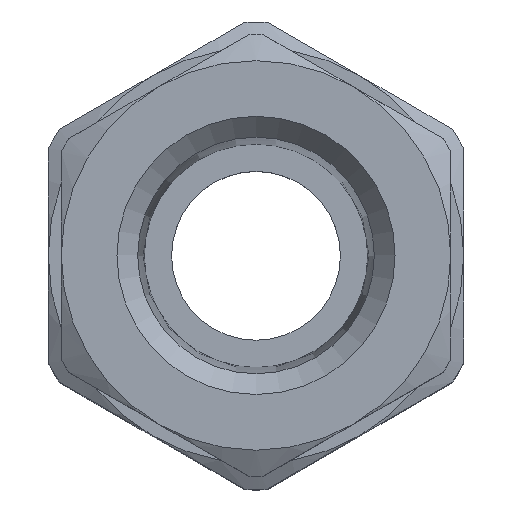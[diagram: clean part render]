
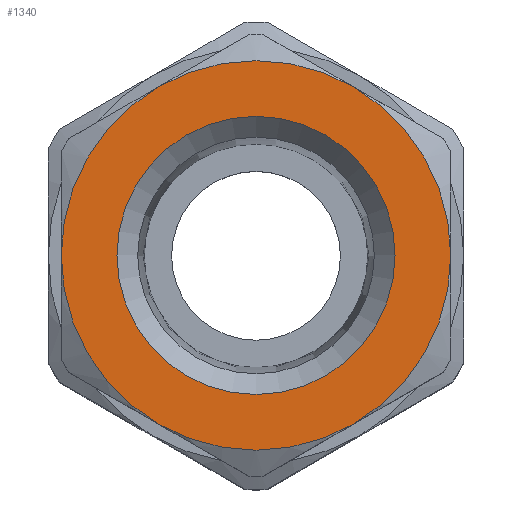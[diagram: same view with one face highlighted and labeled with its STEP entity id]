
A CAD part, top view. The second image highlights one B-rep face of the part: STEP entity #1340.
In plain terms, the highlighted planar face has unit normal (0, 0, 1).
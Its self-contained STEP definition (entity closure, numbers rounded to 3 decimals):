
#1268=CARTESIAN_POINT('',(0.0,0.0,11.5));
#1269=DIRECTION('',(0.0,0.0,1.0));
#1270=DIRECTION('',(1.0,0.0,0.0));
#1271=AXIS2_PLACEMENT_3D('',#1268,#1269,#1270);
#1272=PLANE('',#1271);
#1273=CARTESIAN_POINT('',(7.5,-12.99,11.5));
#1274=VERTEX_POINT('',#1273);
#1275=CARTESIAN_POINT('',(15.0,0.,11.5));
#1276=VERTEX_POINT('',#1275);
#1277=CARTESIAN_POINT('',(0.0,0.0,11.5));
#1278=DIRECTION('',(0.0,0.0,1.0));
#1279=DIRECTION('',(1.0,0.0,0.0));
#1280=AXIS2_PLACEMENT_3D('',#1277,#1278,#1279);
#1281=CIRCLE('',#1280,15.0);
#1282=EDGE_CURVE('',#1274,#1276,#1281,.T.);
#1283=ORIENTED_EDGE('',*,*,#1282,.T.);
#1284=CARTESIAN_POINT('',(7.5,12.99,11.5));
#1285=VERTEX_POINT('',#1284);
#1286=CARTESIAN_POINT('',(0.0,0.0,11.5));
#1287=DIRECTION('',(0.0,0.0,1.0));
#1288=DIRECTION('',(1.0,0.0,0.0));
#1289=AXIS2_PLACEMENT_3D('',#1286,#1287,#1288);
#1290=CIRCLE('',#1289,15.0);
#1291=EDGE_CURVE('',#1276,#1285,#1290,.T.);
#1292=ORIENTED_EDGE('',*,*,#1291,.T.);
#1293=CARTESIAN_POINT('',(-7.5,12.99,11.5));
#1294=VERTEX_POINT('',#1293);
#1295=CARTESIAN_POINT('',(0.0,0.0,11.5));
#1296=DIRECTION('',(0.0,0.0,1.0));
#1297=DIRECTION('',(1.0,0.0,0.0));
#1298=AXIS2_PLACEMENT_3D('',#1295,#1296,#1297);
#1299=CIRCLE('',#1298,15.0);
#1300=EDGE_CURVE('',#1285,#1294,#1299,.T.);
#1301=ORIENTED_EDGE('',*,*,#1300,.T.);
#1302=CARTESIAN_POINT('',(-15.0,0.,11.5));
#1303=VERTEX_POINT('',#1302);
#1304=CARTESIAN_POINT('',(0.0,0.0,11.5));
#1305=DIRECTION('',(0.0,0.0,1.0));
#1306=DIRECTION('',(1.0,0.0,0.0));
#1307=AXIS2_PLACEMENT_3D('',#1304,#1305,#1306);
#1308=CIRCLE('',#1307,15.0);
#1309=EDGE_CURVE('',#1294,#1303,#1308,.T.);
#1310=ORIENTED_EDGE('',*,*,#1309,.T.);
#1311=CARTESIAN_POINT('',(-7.5,-12.99,11.5));
#1312=VERTEX_POINT('',#1311);
#1313=CARTESIAN_POINT('',(0.0,0.0,11.5));
#1314=DIRECTION('',(0.0,0.0,1.0));
#1315=DIRECTION('',(1.0,0.0,0.0));
#1316=AXIS2_PLACEMENT_3D('',#1313,#1314,#1315);
#1317=CIRCLE('',#1316,15.0);
#1318=EDGE_CURVE('',#1303,#1312,#1317,.T.);
#1319=ORIENTED_EDGE('',*,*,#1318,.T.);
#1320=CARTESIAN_POINT('',(0.0,0.0,11.5));
#1321=DIRECTION('',(0.0,0.0,1.0));
#1322=DIRECTION('',(1.0,0.0,0.0));
#1323=AXIS2_PLACEMENT_3D('',#1320,#1321,#1322);
#1324=CIRCLE('',#1323,15.0);
#1325=EDGE_CURVE('',#1312,#1274,#1324,.T.);
#1326=ORIENTED_EDGE('',*,*,#1325,.T.);
#1327=EDGE_LOOP('',(#1283,#1292,#1301,#1310,#1319,#1326));
#1328=FACE_OUTER_BOUND('',#1327,.T.);
#1329=CARTESIAN_POINT('',(10.711,0.0,11.5));
#1330=VERTEX_POINT('',#1329);
#1331=CARTESIAN_POINT('',(0.0,0.0,11.5));
#1332=DIRECTION('',(0.0,0.0,1.0));
#1333=DIRECTION('',(1.0,0.0,0.0));
#1334=AXIS2_PLACEMENT_3D('',#1331,#1332,#1333);
#1335=CIRCLE('',#1334,10.711);
#1336=EDGE_CURVE('',#1330,#1330,#1335,.T.);
#1337=ORIENTED_EDGE('',*,*,#1336,.F.);
#1338=EDGE_LOOP('',(#1337));
#1339=FACE_BOUND('',#1338,.T.);
#1340=ADVANCED_FACE('',(#1328,#1339),#1272,.T.);
